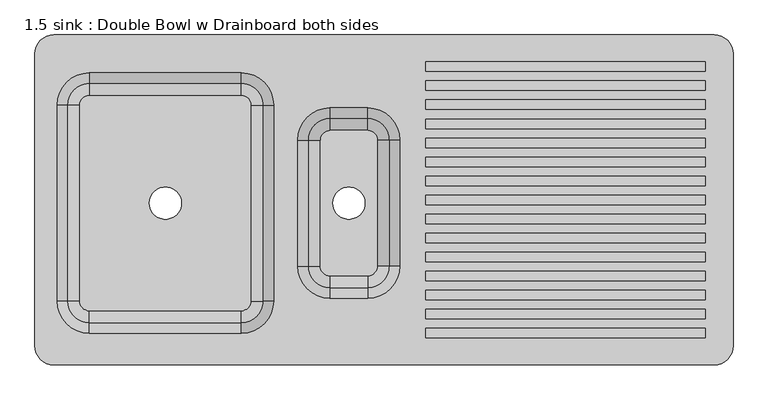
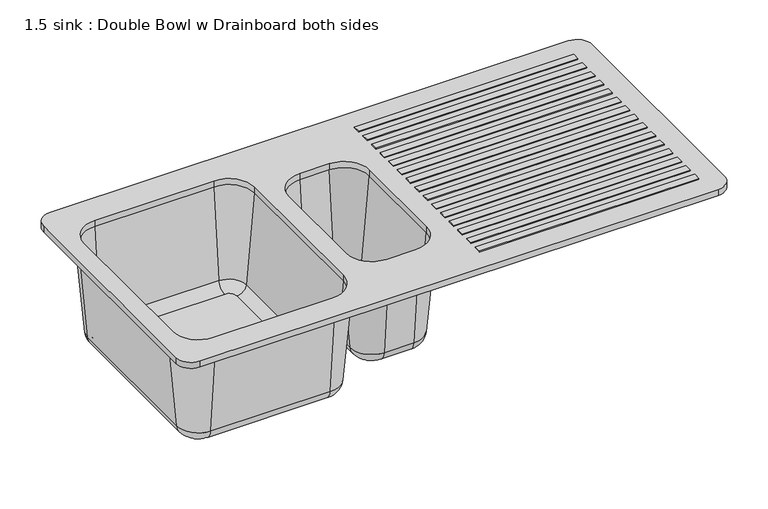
"""IFC4 building model written with IfcOpenShell, lengths in millimetres: flow terminal geometry, 1.5 sink : Double Bowl w Drainboard both sides."""

from ifc_helpers import new_model, si_unit, point, frame, origin, place, context, project, spatial, polyline, circle_curve, ellipse_curve, trimmed, outline, extrude, source, transform, mapped, element, save
from ifc_brep_helpers import plane_surface, cylinder_surface, revolved_surface, advanced_brep


def flow_terminal_1_5_sink_double_bowl_w_drainboard_both_sides_b46aa2b9(model_context):
    return source(origin(), model_context, "Body", "SolidModel", [
        advanced_brep(
        [(-16.6010968, 149.3834378, 710.1840889), (-60.3607594, 193.1431005, 710.1840889), (-60.3607594, 209.7498409, 900.0), (0.0056436, 149.3834378, 900.0), (-45.0723412, 149.3834378, 684.095), (-60.3607594, 164.671856, 684.095), (-45.0723412, -159.0165622, 684.095), (-60.3607594, -174.3049804, 684.095), (-299.7107594, -174.3049804, 684.095), (-314.9991776, -159.0165622, 684.095), (-314.9991776, 149.3834378, 684.095), (-299.7107594, 164.671856, 684.095), (-205.4357594, -4.8165622, 684.095), (-154.6357594, -4.8165622, 684.095), (-45.0723412, 149.3834378, 693.625), (-60.3607594, 164.671856, 693.625), (-299.7107594, 164.671856, 693.625), (-314.9991776, 149.3834378, 693.625), (-314.9991776, -159.0165622, 693.625), (-299.7107594, -174.3049804, 693.625), (-60.3607594, -174.3049804, 693.625), (-45.0723412, -159.0165622, 693.625), (-205.4357594, -4.8165622, 693.625), (-154.6357594, -4.8165622, 693.625), (-26.0948322, 149.3834378, 711.0146831), (-60.3607594, 183.649365, 711.0146831), (-9.5607594, 149.3834378, 900.0), (-60.3607594, 200.1834378, 900.0), (0.0056436, -159.0165622, 900.0), (-16.6010968, -159.0165622, 710.1840889), (-26.0948322, -159.0165622, 711.0146831), (-9.5607594, -159.0165622, 900.0), (-60.3607594, -219.3829652, 900.0), (-60.3607594, -202.7762248, 710.1840889), (-60.3607594, -193.2824894, 711.0146831), (-60.3607594, -209.8165622, 900.0), (-299.7107594, -219.3829652, 900.0), (-299.7107594, -202.7762248, 710.1840889), (-299.7107594, -193.2824894, 711.0146831), (-299.7107594, -209.8165622, 900.0), (-360.0771625, -159.0165622, 900.0), (-343.4704221, -159.0165622, 710.1840889), (-333.9766866, -159.0165622, 711.0146831), (-350.5107594, -159.0165622, 900.0), (-360.0771625, 149.3834378, 900.0), (-343.4704221, 149.3834378, 710.1840889), (-333.9766866, 149.3834378, 711.0146831), (-350.5107594, 149.3834378, 900.0), (-299.7107594, 209.7498409, 900.0), (-299.7107594, 193.1431005, 710.1840889), (-299.7107594, 183.649365, 711.0146831), (-299.7107594, 200.1834378, 900.0), (684.4892406, 260.1834378, 912.7), (-355.5107594, 260.1834378, 912.7), (-385.5107594, 230.1834378, 912.7), (-385.5107594, -229.8165622, 912.7), (-355.5107594, -259.8165622, 912.7), (684.4892406, -259.8165622, 912.7), (714.4892406, -229.8165622, 912.7), (714.4892406, 230.1834378, 912.7), (-60.3607594, 200.1834378, 912.7), (-9.5607594, 149.3834378, 912.7), (-9.5607594, -159.0165622, 912.7), (-60.3607594, -209.8165622, 912.7), (-299.7107594, -209.8165622, 912.7), (-350.5107594, -159.0165622, 912.7), (-350.5107594, 149.3834378, 912.7), (-299.7107594, 200.1834378, 912.7), (79.3392406, -154.8165622, 912.7), (28.5392406, -104.0165622, 912.7), (28.5392406, 94.3834378, 912.7), (79.3392406, 145.1834378, 912.7), (138.6892406, 145.1834378, 912.7), (189.4892406, 94.3834378, 912.7), (189.4892406, -104.0165622, 912.7), (138.6892406, -154.8165622, 912.7), (684.4892406, 260.1834378, 900.0), (714.4892406, 230.1834378, 900.0), (714.4892406, -229.8165622, 900.0), (684.4892406, -259.8165622, 900.0), (-355.5107594, -259.8165622, 900.0), (-385.5107594, -229.8165622, 900.0), (-385.5107594, 230.1834378, 900.0), (-355.5107594, 260.1834378, 900.0), (79.3392406, 154.7498409, 900.0), (18.9728375, 94.3834378, 900.0), (18.9728375, -104.0165622, 900.0), (79.3392406, -164.3829652, 900.0), (138.6892406, -164.3829652, 900.0), (199.0556436, -104.0165622, 900.0), (199.0556436, 94.3834378, 900.0), (138.6892406, 154.7498409, 900.0), (79.3392406, -154.8165622, 900.0), (28.5392406, -104.0165622, 900.0), (28.5392406, 94.3834378, 900.0), (79.3392406, 145.1834378, 900.0), (138.6892406, 145.1834378, 900.0), (189.4892406, 94.3834378, 900.0), (189.4892406, -104.0165622, 900.0), (138.6892406, -154.8165622, 900.0), (45.0733134, 94.3834378, 711.0146831), (79.3392406, 128.649365, 711.0146831), (64.0508224, 94.3834378, 693.625), (79.3392406, 109.671856, 693.625), (64.0508224, -104.0165622, 693.625), (79.3392406, -119.3049804, 693.625), (138.6892406, -119.3049804, 693.625), (153.9776588, -104.0165622, 693.625), (153.9776588, 94.3834378, 693.625), (138.6892406, 109.671856, 693.625), (83.6142406, -4.8165622, 693.625), (134.4142406, -4.8165622, 693.625), (64.0508224, 94.3834378, 684.095), (79.3392406, 109.671856, 684.095), (138.6892406, 109.671856, 684.095), (153.9776588, 94.3834378, 684.095), (153.9776588, -104.0165622, 684.095), (138.6892406, -119.3049804, 684.095), (79.3392406, -119.3049804, 684.095), (64.0508224, -104.0165622, 684.095), (83.6142406, -4.8165622, 684.095), (134.4142406, -4.8165622, 684.095), (35.5795779, 94.3834378, 710.1840889), (79.3392406, 138.1431005, 710.1840889), (45.0733134, -104.0165622, 711.0146831), (35.5795779, -104.0165622, 710.1840889), (79.3392406, -138.2824894, 711.0146831), (79.3392406, -147.7762248, 710.1840889), (138.6892406, -138.2824894, 711.0146831), (138.6892406, -147.7762248, 710.1840889), (172.9551678, -104.0165622, 711.0146831), (182.4489032, -104.0165622, 710.1840889), (172.9551678, 94.3834378, 711.0146831), (182.4489032, 94.3834378, 710.1840889), (138.6892406, 128.649365, 711.0146831), (138.6892406, 138.1431005, 710.1840889)],
        [
            (0, 1, circle_curve(frame((-60.3607594, 149.3834378, 710.1840889), z_axis=(0.0, 0.0, 1.0), x_axis=(0.0, 1.0, 0.0)), 43.7596627)),
            (1, 2),
            (2, 3, circle_curve(frame((-60.3607594, 149.3834378, 900.0), z_axis=(0.0, 0.0, -1.0), x_axis=(0.0, 1.0, 0.0)), 60.3664031)),
            (3, 0),
            (0, 4, circle_curve(frame((-45.0723412, 149.3834378, 712.675), z_axis=(0.0, 1.0, 0.0), x_axis=(1.0, 0.0, 0.0)), 28.58)),
            (4, 5, circle_curve(frame((-60.3607594, 149.3834378, 684.095), z_axis=(0.0, 0.0, 1.0), x_axis=(0.0, 1.0, 0.0)), 15.2884182)),
            (5, 1, circle_curve(frame((-60.3607594, 164.671856, 712.675), z_axis=(1.0, 0.0, 0.0), x_axis=(0.0, 1.0, 0.0)), 28.58)),
            (4, 6),
            (6, 7, circle_curve(frame((-60.3607594, -159.0165622, 684.095), z_axis=(0.0, 0.0, -1.0), x_axis=(1.0, 0.0, 0.0)), 15.2884182)),
            (7, 8),
            (8, 9, circle_curve(frame((-299.7107594, -159.0165622, 684.095), z_axis=(0.0, 0.0, -1.0), x_axis=(0.0, -1.0, 0.0)), 15.2884182)),
            (9, 10),
            (10, 11, circle_curve(frame((-299.7107594, 149.3834378, 684.095), z_axis=(0.0, 0.0, -1.0), x_axis=(-1.0, 0.0, 0.0)), 15.2884182)),
            (11, 5),
            (12, 13, circle_curve(frame((-180.0357594, -4.8165622, 684.095), z_axis=(0.0, 0.0, 1.0), x_axis=(1.0, 0.0, 0.0)), 25.4)),
            (13, 12, circle_curve(frame((-180.0357594, -4.8165622, 684.095), z_axis=(0.0, 0.0, 1.0), x_axis=(1.0, 0.0, 0.0)), 25.4)),
            (14, 15, circle_curve(frame((-60.3607594, 149.3834378, 693.625), z_axis=(0.0, 0.0, 1.0), x_axis=(0.0, 1.0, 0.0)), 15.2884182)),
            (15, 16),
            (16, 17, circle_curve(frame((-299.7107594, 149.3834378, 693.625), z_axis=(0.0, 0.0, 1.0), x_axis=(-1.0, 0.0, 0.0)), 15.2884182)),
            (17, 18),
            (18, 19, circle_curve(frame((-299.7107594, -159.0165622, 693.625), z_axis=(0.0, 0.0, 1.0), x_axis=(0.0, -1.0, 0.0)), 15.2884182)),
            (19, 20),
            (20, 21, circle_curve(frame((-60.3607594, -159.0165622, 693.625), z_axis=(0.0, 0.0, 1.0), x_axis=(1.0, 0.0, 0.0)), 15.2884182)),
            (21, 14),
            (22, 23, circle_curve(frame((-180.0357594, -4.8165622, 693.625), z_axis=(0.0, 0.0, -1.0), x_axis=(1.0, 0.0, 0.0)), 25.4)),
            (23, 22, circle_curve(frame((-180.0357594, -4.8165622, 693.625), z_axis=(0.0, 0.0, -1.0), x_axis=(1.0, 0.0, 0.0)), 25.4)),
            (14, 24, circle_curve(frame((-45.0723412, 149.3834378, 712.675), z_axis=(0.0, -1.0, 0.0), x_axis=(1.0, 0.0, 0.0)), 19.05)),
            (24, 25, circle_curve(frame((-60.3607594, 149.3834378, 711.0146831), z_axis=(0.0, 0.0, 1.0), x_axis=(0.0, 1.0, 0.0)), 34.2659272)),
            (25, 15, circle_curve(frame((-60.3607594, 164.671856, 712.675), z_axis=(-1.0, 0.0, 0.0), x_axis=(0.0, 1.0, 0.0)), 19.05)),
            (24, 26),
            (26, 27, circle_curve(frame((-60.3607594, 149.3834378, 900.0), z_axis=(0.0, 0.0, 1.0), x_axis=(0.0, 1.0, 0.0)), 50.8)),
            (27, 25),
            (3, 28),
            (28, 29),
            (29, 0),
            (29, 6, circle_curve(frame((-45.0723412, -159.0165622, 712.675), z_axis=(0.0, 1.0, 0.0), x_axis=(1.0, 0.0, 0.0)), 28.58)),
            (21, 30, circle_curve(frame((-45.0723412, -159.0165622, 712.675), z_axis=(0.0, -1.0, 0.0), x_axis=(1.0, 0.0, 0.0)), 19.05)),
            (30, 24),
            (30, 31),
            (31, 26),
            (28, 32, circle_curve(frame((-60.3607594, -159.0165622, 900.0), z_axis=(0.0, 0.0, -1.0), x_axis=(1.0, 0.0, 0.0)), 60.3664031)),
            (32, 33),
            (33, 29, circle_curve(frame((-60.3607594, -159.0165622, 710.1840889), z_axis=(0.0, 0.0, 1.0), x_axis=(1.0, 0.0, 0.0)), 43.7596627)),
            (33, 7, circle_curve(frame((-60.3607594, -174.3049804, 712.675), z_axis=(1.0, 0.0, 0.0), x_axis=(0.0, -1.0, 0.0)), 28.58)),
            (20, 34, circle_curve(frame((-60.3607594, -174.3049804, 712.675), z_axis=(-1.0, 0.0, 0.0), x_axis=(0.0, -1.0, 0.0)), 19.05)),
            (34, 30, circle_curve(frame((-60.3607594, -159.0165622, 711.0146831), z_axis=(0.0, 0.0, 1.0), x_axis=(1.0, 0.0, 0.0)), 34.2659272)),
            (34, 35),
            (35, 31, circle_curve(frame((-60.3607594, -159.0165622, 900.0), z_axis=(0.0, 0.0, 1.0), x_axis=(1.0, 0.0, 0.0)), 50.8)),
            (32, 36),
            (36, 37),
            (37, 33),
            (37, 8, circle_curve(frame((-299.7107594, -174.3049804, 712.675), z_axis=(1.0, 0.0, 0.0), x_axis=(0.0, -1.0, 0.0)), 28.58)),
            (19, 38, circle_curve(frame((-299.7107594, -174.3049804, 712.675), z_axis=(-1.0, 0.0, 0.0), x_axis=(0.0, -1.0, 0.0)), 19.05)),
            (38, 34),
            (38, 39),
            (39, 35),
            (36, 40, circle_curve(frame((-299.7107594, -159.0165622, 900.0), z_axis=(0.0, 0.0, -1.0), x_axis=(0.0, -1.0, 0.0)), 60.3664031)),
            (40, 41),
            (41, 37, circle_curve(frame((-299.7107594, -159.0165622, 710.1840889), z_axis=(0.0, 0.0, 1.0), x_axis=(0.0, -1.0, 0.0)), 43.7596627)),
            (41, 9, circle_curve(frame((-314.9991776, -159.0165622, 712.675), z_axis=(0.0, -1.0, 0.0), x_axis=(-1.0, 0.0, 0.0)), 28.58)),
            (18, 42, circle_curve(frame((-314.9991776, -159.0165622, 712.675), z_axis=(0.0, 1.0, 0.0), x_axis=(-1.0, 0.0, 0.0)), 19.05)),
            (42, 38, circle_curve(frame((-299.7107594, -159.0165622, 711.0146831), z_axis=(0.0, 0.0, 1.0), x_axis=(0.0, -1.0, 0.0)), 34.2659272)),
            (42, 43),
            (43, 39, circle_curve(frame((-299.7107594, -159.0165622, 900.0), z_axis=(0.0, 0.0, 1.0), x_axis=(0.0, -1.0, 0.0)), 50.8)),
            (40, 44),
            (44, 45),
            (45, 41),
            (45, 10, circle_curve(frame((-314.9991776, 149.3834378, 712.675), z_axis=(0.0, -1.0, 0.0), x_axis=(-1.0, 0.0, 0.0)), 28.58)),
            (17, 46, circle_curve(frame((-314.9991776, 149.3834378, 712.675), z_axis=(0.0, 1.0, 0.0), x_axis=(-1.0, 0.0, 0.0)), 19.05)),
            (46, 42),
            (46, 47),
            (47, 43),
            (44, 48, circle_curve(frame((-299.7107594, 149.3834378, 900.0), z_axis=(0.0, 0.0, -1.0), x_axis=(-1.0, 0.0, 0.0)), 60.3664031)),
            (48, 49),
            (49, 45, circle_curve(frame((-299.7107594, 149.3834378, 710.1840889), z_axis=(0.0, 0.0, 1.0), x_axis=(-1.0, 0.0, 0.0)), 43.7596627)),
            (49, 11, circle_curve(frame((-299.7107594, 164.671856, 712.675), z_axis=(-1.0, 0.0, 0.0), x_axis=(0.0, 1.0, 0.0)), 28.58)),
            (16, 50, circle_curve(frame((-299.7107594, 164.671856, 712.675), z_axis=(1.0, 0.0, 0.0), x_axis=(0.0, 1.0, 0.0)), 19.05)),
            (50, 46, circle_curve(frame((-299.7107594, 149.3834378, 711.0146831), z_axis=(0.0, 0.0, 1.0), x_axis=(-1.0, 0.0, 0.0)), 34.2659272)),
            (50, 51),
            (51, 47, circle_curve(frame((-299.7107594, 149.3834378, 900.0), z_axis=(0.0, 0.0, 1.0), x_axis=(-1.0, 0.0, 0.0)), 50.8)),
            (1, 49),
            (48, 2),
            (25, 50),
            (27, 51),
            (52, 53),
            (53, 54, circle_curve(frame((-355.5107594, 230.1834378, 912.7), z_axis=(0.0, 0.0, 1.0), x_axis=(1.0, 0.0, 0.0)), 30.0)),
            (54, 55),
            (55, 56, circle_curve(frame((-355.5107594, -229.8165622, 912.7), z_axis=(0.0, 0.0, 1.0), x_axis=(1.0, 0.0, 0.0)), 30.0)),
            (56, 57),
            (57, 58, circle_curve(frame((684.4892406, -229.8165622, 912.7), z_axis=(0.0, 0.0, 1.0), x_axis=(1.0, 0.0, 0.0)), 30.0)),
            (58, 59),
            (59, 52, circle_curve(frame((684.4892406, 230.1834378, 912.7), z_axis=(0.0, 0.0, 1.0), x_axis=(1.0, 0.0, 0.0)), 30.0)),
            (60, 61, circle_curve(frame((-60.3607594, 149.3834378, 912.7), z_axis=(0.0, 0.0, -1.0), x_axis=(1.0, 0.0, 0.0)), 50.8)),
            (61, 62),
            (62, 63, circle_curve(frame((-60.3607594, -159.0165622, 912.7), z_axis=(0.0, 0.0, -1.0), x_axis=(1.0, 0.0, 0.0)), 50.8)),
            (63, 64),
            (64, 65, circle_curve(frame((-299.7107594, -159.0165622, 912.7), z_axis=(0.0, 0.0, -1.0), x_axis=(1.0, 0.0, 0.0)), 50.8)),
            (65, 66),
            (66, 67, circle_curve(frame((-299.7107594, 149.3834378, 912.7), z_axis=(0.0, 0.0, -1.0), x_axis=(1.0, 0.0, 0.0)), 50.8)),
            (67, 60),
            (68, 69, circle_curve(frame((79.3392406, -104.0165622, 912.7), z_axis=(0.0, 0.0, -1.0), x_axis=(1.0, 0.0, 0.0)), 50.8)),
            (69, 70),
            (70, 71, circle_curve(frame((79.3392406, 94.3834378, 912.7), z_axis=(0.0, 0.0, -1.0), x_axis=(1.0, 0.0, 0.0)), 50.8)),
            (71, 72),
            (72, 73, circle_curve(frame((138.6892406, 94.3834378, 912.7), z_axis=(0.0, 0.0, -1.0), x_axis=(1.0, 0.0, 0.0)), 50.8)),
            (73, 74),
            (74, 75, circle_curve(frame((138.6892406, -104.0165622, 912.7), z_axis=(0.0, 0.0, -1.0), x_axis=(1.0, 0.0, 0.0)), 50.8)),
            (75, 68),
            (76, 77, circle_curve(frame((684.4892406, 230.1834378, 900.0), z_axis=(0.0, 0.0, -1.0), x_axis=(1.0, 0.0, 0.0)), 30.0)),
            (77, 78),
            (78, 79, circle_curve(frame((684.4892406, -229.8165622, 900.0), z_axis=(0.0, 0.0, -1.0), x_axis=(1.0, 0.0, 0.0)), 30.0)),
            (79, 80),
            (80, 81, circle_curve(frame((-355.5107594, -229.8165622, 900.0), z_axis=(0.0, 0.0, -1.0), x_axis=(1.0, 0.0, 0.0)), 30.0)),
            (81, 82),
            (82, 83, circle_curve(frame((-355.5107594, 230.1834378, 900.0), z_axis=(0.0, 0.0, -1.0), x_axis=(1.0, 0.0, 0.0)), 30.0)),
            (83, 76),
            (84, 85, circle_curve(frame((79.3392406, 94.3834378, 900.0), z_axis=(0.0, 0.0, 1.0), x_axis=(0.0, 1.0, 0.0)), 60.3664031)),
            (85, 86),
            (86, 87, circle_curve(frame((79.3392406, -104.0165622, 900.0), z_axis=(0.0, 0.0, 1.0), x_axis=(-1.0, 0.0, 0.0)), 60.3664031)),
            (87, 88),
            (88, 89, circle_curve(frame((138.6892406, -104.0165622, 900.0), z_axis=(0.0, 0.0, 1.0), x_axis=(0.0, -1.0, 0.0)), 60.3664031)),
            (89, 90),
            (90, 91, circle_curve(frame((138.6892406, 94.3834378, 900.0), z_axis=(0.0, 0.0, 1.0), x_axis=(1.0, 0.0, 0.0)), 60.3664031)),
            (91, 84),
            (52, 76),
            (83, 53),
            (82, 54),
            (81, 55),
            (80, 56),
            (79, 57),
            (78, 58),
            (77, 59),
            (60, 27),
            (26, 61),
            (31, 62),
            (35, 63),
            (39, 64),
            (43, 65),
            (47, 66),
            (51, 67),
            (68, 92),
            (92, 93, circle_curve(frame((79.3392406, -104.0165622, 900.0), z_axis=(0.0, 0.0, -1.0), x_axis=(1.0, 0.0, 0.0)), 50.8)),
            (93, 69),
            (93, 94),
            (94, 70),
            (94, 95, circle_curve(frame((79.3392406, 94.3834378, 900.0), z_axis=(0.0, 0.0, -1.0), x_axis=(1.0, 0.0, 0.0)), 50.8)),
            (95, 71),
            (95, 96),
            (96, 72),
            (96, 97, circle_curve(frame((138.6892406, 94.3834378, 900.0), z_axis=(0.0, 0.0, -1.0), x_axis=(1.0, 0.0, 0.0)), 50.8)),
            (97, 73),
            (97, 98),
            (98, 74),
            (98, 99, circle_curve(frame((138.6892406, -104.0165622, 900.0), z_axis=(0.0, 0.0, -1.0), x_axis=(1.0, 0.0, 0.0)), 50.8)),
            (99, 75),
            (99, 92),
            (100, 101, circle_curve(frame((79.3392406, 94.3834378, 711.0146831), z_axis=(0.0, 0.0, -1.0), x_axis=(0.0, 1.0, 0.0)), 34.2659272)),
            (101, 95),
            (94, 100),
            (100, 102, circle_curve(frame((64.0508224, 94.3834378, 712.675), z_axis=(0.0, -1.0, 0.0), x_axis=(1.0, 0.0, 0.0)), 19.05)),
            (102, 103, circle_curve(frame((79.3392406, 94.3834378, 693.625), z_axis=(0.0, 0.0, -1.0), x_axis=(0.0, 1.0, 0.0)), 15.2884182)),
            (103, 101, circle_curve(frame((79.3392406, 109.671856, 712.675), z_axis=(1.0, 0.0, 0.0), x_axis=(0.0, -1.0, 0.0)), 19.05)),
            (102, 104),
            (104, 105, circle_curve(frame((79.3392406, -104.0165622, 693.625), z_axis=(0.0, 0.0, 1.0), x_axis=(-1.0, 0.0, 0.0)), 15.2884182)),
            (105, 106),
            (106, 107, circle_curve(frame((138.6892406, -104.0165622, 693.625), z_axis=(0.0, 0.0, 1.0), x_axis=(0.0, -1.0, 0.0)), 15.2884182)),
            (107, 108),
            (108, 109, circle_curve(frame((138.6892406, 94.3834378, 693.625), z_axis=(0.0, 0.0, 1.0), x_axis=(1.0, 0.0, 0.0)), 15.2884182)),
            (109, 103),
            (110, 111, circle_curve(frame((109.0142406, -4.8165622, 693.625), z_axis=(0.0, 0.0, -1.0), x_axis=(1.0, 0.0, 0.0)), 25.4)),
            (111, 110, circle_curve(frame((109.0142406, -4.8165622, 693.625), z_axis=(0.0, 0.0, -1.0), x_axis=(1.0, 0.0, 0.0)), 25.4)),
            (112, 113, circle_curve(frame((79.3392406, 94.3834378, 684.095), z_axis=(0.0, 0.0, -1.0), x_axis=(0.0, 1.0, 0.0)), 15.2884182)),
            (113, 114),
            (114, 115, circle_curve(frame((138.6892406, 94.3834378, 684.095), z_axis=(0.0, 0.0, -1.0), x_axis=(1.0, 0.0, 0.0)), 15.2884182)),
            (115, 116),
            (116, 117, circle_curve(frame((138.6892406, -104.0165622, 684.095), z_axis=(0.0, 0.0, -1.0), x_axis=(0.0, -1.0, 0.0)), 15.2884182)),
            (117, 118),
            (118, 119, circle_curve(frame((79.3392406, -104.0165622, 684.095), z_axis=(0.0, 0.0, -1.0), x_axis=(-1.0, 0.0, 0.0)), 15.2884182)),
            (119, 112),
            (120, 121, circle_curve(frame((109.0142406, -4.8165622, 684.095), z_axis=(0.0, 0.0, 1.0), x_axis=(1.0, 0.0, 0.0)), 25.4)),
            (121, 120, circle_curve(frame((109.0142406, -4.8165622, 684.095), z_axis=(0.0, 0.0, 1.0), x_axis=(1.0, 0.0, 0.0)), 25.4)),
            (112, 122, circle_curve(frame((64.0508224, 94.3834378, 712.675), z_axis=(0.0, 1.0, 0.0), x_axis=(1.0, 0.0, 0.0)), 28.58)),
            (122, 123, circle_curve(frame((79.3392406, 94.3834378, 710.1840889), z_axis=(0.0, 0.0, -1.0), x_axis=(0.0, 1.0, 0.0)), 43.7596627)),
            (123, 113, circle_curve(frame((79.3392406, 109.671856, 712.675), z_axis=(-1.0, 0.0, 0.0), x_axis=(0.0, -1.0, 0.0)), 28.58)),
            (122, 85),
            (84, 123),
            (93, 124),
            (124, 100),
            (124, 104, circle_curve(frame((64.0508224, -104.0165622, 712.675), z_axis=(0.0, -1.0, 0.0), x_axis=(1.0, 0.0, 0.0)), 19.05)),
            (119, 125, circle_curve(frame((64.0508224, -104.0165622, 712.675), z_axis=(0.0, 1.0, 0.0), x_axis=(1.0, 0.0, 0.0)), 28.58)),
            (125, 122),
            (125, 86),
            (92, 126),
            (126, 124, circle_curve(frame((79.3392406, -104.0165622, 711.0146831), z_axis=(0.0, 0.0, -1.0), x_axis=(-1.0, 0.0, 0.0)), 34.2659272)),
            (126, 105, circle_curve(frame((79.3392406, -119.3049804, 712.675), z_axis=(1.0, 0.0, 0.0), x_axis=(0.0, 1.0, 0.0)), 19.05)),
            (118, 127, circle_curve(frame((79.3392406, -119.3049804, 712.675), z_axis=(-1.0, 0.0, 0.0), x_axis=(0.0, 1.0, 0.0)), 28.58)),
            (127, 125, circle_curve(frame((79.3392406, -104.0165622, 710.1840889), z_axis=(0.0, 0.0, -1.0), x_axis=(-1.0, 0.0, 0.0)), 43.7596627)),
            (127, 87),
            (99, 128),
            (128, 126),
            (128, 106, circle_curve(frame((138.6892406, -119.3049804, 712.675), z_axis=(1.0, 0.0, 0.0), x_axis=(0.0, 1.0, 0.0)), 19.05)),
            (117, 129, circle_curve(frame((138.6892406, -119.3049804, 712.675), z_axis=(-1.0, 0.0, 0.0), x_axis=(0.0, 1.0, 0.0)), 28.58)),
            (129, 127),
            (129, 88),
            (98, 130),
            (130, 128, circle_curve(frame((138.6892406, -104.0165622, 711.0146831), z_axis=(0.0, 0.0, -1.0), x_axis=(0.0, -1.0, 0.0)), 34.2659272)),
            (130, 107, circle_curve(frame((153.9776588, -104.0165622, 712.675), z_axis=(0.0, 1.0, 0.0), x_axis=(-1.0, 0.0, 0.0)), 19.05)),
            (116, 131, circle_curve(frame((153.9776588, -104.0165622, 712.675), z_axis=(0.0, -1.0, 0.0), x_axis=(-1.0, 0.0, 0.0)), 28.58)),
            (131, 129, circle_curve(frame((138.6892406, -104.0165622, 710.1840889), z_axis=(0.0, 0.0, -1.0), x_axis=(0.0, -1.0, 0.0)), 43.7596627)),
            (131, 89),
            (97, 132),
            (132, 130),
            (132, 108, circle_curve(frame((153.9776588, 94.3834378, 712.675), z_axis=(0.0, 1.0, 0.0), x_axis=(-1.0, 0.0, 0.0)), 19.05)),
            (115, 133, circle_curve(frame((153.9776588, 94.3834378, 712.675), z_axis=(0.0, -1.0, 0.0), x_axis=(-1.0, 0.0, 0.0)), 28.58)),
            (133, 131),
            (133, 90),
            (96, 134),
            (134, 132, circle_curve(frame((138.6892406, 94.3834378, 711.0146831), z_axis=(0.0, 0.0, -1.0), x_axis=(1.0, 0.0, 0.0)), 34.2659272)),
            (134, 109, circle_curve(frame((138.6892406, 109.671856, 712.675), z_axis=(-1.0, 0.0, 0.0), x_axis=(0.0, -1.0, 0.0)), 19.05)),
            (114, 135, circle_curve(frame((138.6892406, 109.671856, 712.675), z_axis=(1.0, 0.0, 0.0), x_axis=(0.0, -1.0, 0.0)), 28.58)),
            (135, 133, circle_curve(frame((138.6892406, 94.3834378, 710.1840889), z_axis=(0.0, 0.0, -1.0), x_axis=(1.0, 0.0, 0.0)), 43.7596627)),
            (135, 91),
            (101, 134),
            (123, 135),
            (110, 120),
            (121, 111),
            (22, 12),
            (13, 23),
        ],
        [
            revolved_surface(polyline([(-60.3607594, 209.7498409, 900.0), (-60.3607594, 193.1431005, 710.1840889)]), (-60.3607594, 149.3834378, 0.0), (0.0, 0.0, -1.0)),
            revolved_surface(trimmed(ellipse_curve(frame((-60.3607594, 164.671856, 712.675), z_axis=(-1.0, 0.0, 0.0), x_axis=(0.0, 1.0, 0.0)), 28.58, 28.58), [point((-60.3607594, 193.1431005, 710.1840889))], [point((-60.3607594, 164.671856, 684.095))], True, "CARTESIAN"), (-60.3607594, 149.3834378, 0.0), (0.0, 0.0, -1.0)),
            plane_surface(frame((-60.3607594, 149.3834378, 684.095), z_axis=(0.0, 0.0, -1.0), x_axis=(0.0, 1.0, 0.0))),
            plane_surface(frame((-60.3607594, 149.3834378, 693.625), z_axis=(0.0, 0.0, 1.0), x_axis=(0.0, 1.0, 0.0))),
            revolved_surface(trimmed(ellipse_curve(frame((-60.3607594, 164.671856, 712.675), z_axis=(1.0, 0.0, 0.0), x_axis=(0.0, 1.0, 0.0)), 19.05, 19.05), [point((-60.3607594, 164.671856, 693.625))], [point((-60.3607594, 183.649365, 711.0146831))], True, "CARTESIAN"), (-60.3607594, 149.3834378, 0.0), (0.0, 0.0, -1.0)),
            revolved_surface(polyline([(-60.3607594, 183.649365, 711.0146831), (-60.3607594, 200.1834378, 900.0)]), (-60.3607594, 149.3834378, 0.0), (0.0, 0.0, -1.0)),
            plane_surface(frame((0.0056436, 149.3834378, 900.0), z_axis=(0.9961946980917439, 0.0, -0.08715574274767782), x_axis=(0.0, -1.0, 0.0))),
            cylinder_surface(frame((-45.0723412, 149.3834378, 712.675), z_axis=(0.0, 1.0, 0.0), x_axis=(1.0, 0.0, 0.0)), 28.58),
            revolved_surface(polyline([(-26.022341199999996, -159.01656219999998, 712.675), (-26.022341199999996, 149.3834378, 712.675)]), (-45.0723412, 149.3834378, 712.675), (0.0, -1.0, 0.0)),
            plane_surface(frame((-26.0948322, 149.3834378, 711.0146831), z_axis=(-0.9961946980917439, 0.0, 0.08715574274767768), x_axis=(0.0, -1.0, 0.0))),
            revolved_surface(polyline([(0.0056436, -159.0165622, 900.0), (-16.6010968, -159.0165622, 710.1840889)]), (-60.3607594, -159.0165622, 0.0), (0.0, 0.0, -1.0)),
            revolved_surface(trimmed(ellipse_curve(frame((-45.0723412, -159.0165622, 712.675), z_axis=(0.0, 1.0, 0.0), x_axis=(1.0, 0.0, 0.0)), 28.58, 28.58), [point((-16.6010968, -159.0165622, 710.1840889))], [point((-45.0723412, -159.0165622, 684.095))], True, "CARTESIAN"), (-60.3607594, -159.0165622, 0.0), (0.0, 0.0, -1.0)),
            revolved_surface(trimmed(ellipse_curve(frame((-45.0723412, -159.0165622, 712.675), z_axis=(0.0, -1.0, 0.0), x_axis=(1.0, 0.0, 0.0)), 19.05, 19.05), [point((-45.0723412, -159.0165622, 693.625))], [point((-26.0948322, -159.0165622, 711.0146831))], True, "CARTESIAN"), (-60.3607594, -159.0165622, 0.0), (0.0, 0.0, -1.0)),
            revolved_surface(polyline([(-26.0948322, -159.0165622, 711.0146831), (-9.5607594, -159.0165622, 900.0)]), (-60.3607594, -159.0165622, 0.0), (0.0, 0.0, -1.0)),
            plane_surface(frame((-60.3607594, -219.3829652, 900.0), z_axis=(0.0, -0.9961946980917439, -0.08715574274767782), x_axis=(-1.0, 0.0, 0.0))),
            cylinder_surface(frame((-60.3607594, -174.3049804, 712.675), z_axis=(1.0, 0.0, 0.0), x_axis=(0.0, -1.0, 0.0)), 28.58),
            revolved_surface(polyline([(-299.7107594, -193.35498040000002, 712.675), (-60.3607594, -193.35498040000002, 712.675)]), (-60.3607594, -174.3049804, 712.675), (-1.0, 0.0, 0.0)),
            plane_surface(frame((-60.3607594, -193.2824894, 711.0146831), z_axis=(0.0, 0.9961946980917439, 0.08715574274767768), x_axis=(-1.0, 0.0, 0.0))),
            revolved_surface(polyline([(-299.7107594, -219.3829652, 900.0), (-299.7107594, -202.7762248, 710.1840889)]), (-299.7107594, -159.0165622, 0.0), (0.0, 0.0, -1.0)),
            revolved_surface(trimmed(ellipse_curve(frame((-299.7107594, -174.3049804, 712.675), z_axis=(1.0, 0.0, 0.0), x_axis=(0.0, -1.0, 0.0)), 28.58, 28.58), [point((-299.7107594, -202.7762248, 710.1840889))], [point((-299.7107594, -174.3049804, 684.095))], True, "CARTESIAN"), (-299.7107594, -159.0165622, 0.0), (0.0, 0.0, -1.0)),
            revolved_surface(trimmed(ellipse_curve(frame((-299.7107594, -174.3049804, 712.675), z_axis=(-1.0, 0.0, 0.0), x_axis=(0.0, -1.0, 0.0)), 19.05, 19.05), [point((-299.7107594, -174.3049804, 693.625))], [point((-299.7107594, -193.2824894, 711.0146831))], True, "CARTESIAN"), (-299.7107594, -159.0165622, 0.0), (0.0, 0.0, -1.0)),
            revolved_surface(polyline([(-299.7107594, -193.2824894, 711.0146831), (-299.7107594, -209.8165622, 900.0)]), (-299.7107594, -159.0165622, 0.0), (0.0, 0.0, -1.0)),
            plane_surface(frame((-360.0771625, -159.0165622, 900.0), z_axis=(-0.9961946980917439, 0.0, -0.08715574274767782), x_axis=(0.0, 1.0, 0.0))),
            cylinder_surface(frame((-314.9991776, -159.0165622, 712.675), z_axis=(0.0, -1.0, 0.0), x_axis=(-1.0, 0.0, 0.0)), 28.58),
            revolved_surface(polyline([(-334.0491776, 149.38343779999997, 712.675), (-334.0491776, -159.0165622, 712.675)]), (-314.9991776, -159.0165622, 712.675), (0.0, 1.0, 0.0)),
            plane_surface(frame((-333.9766866, -159.0165622, 711.0146831), z_axis=(0.9961946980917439, 0.0, 0.08715574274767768), x_axis=(0.0, 1.0, 0.0))),
            revolved_surface(polyline([(-360.0771625, 149.3834378, 900.0), (-343.4704221, 149.3834378, 710.1840889)]), (-299.7107594, 149.3834378, 0.0), (0.0, 0.0, -1.0)),
            revolved_surface(trimmed(ellipse_curve(frame((-314.9991776, 149.3834378, 712.675), z_axis=(0.0, -1.0, 0.0), x_axis=(-1.0, 0.0, 0.0)), 28.58, 28.58), [point((-343.4704221, 149.3834378, 710.1840889))], [point((-314.9991776, 149.3834378, 684.095))], True, "CARTESIAN"), (-299.7107594, 149.3834378, 0.0), (0.0, 0.0, -1.0)),
            revolved_surface(trimmed(ellipse_curve(frame((-314.9991776, 149.3834378, 712.675), z_axis=(0.0, 1.0, 0.0), x_axis=(-1.0, 0.0, 0.0)), 19.05, 19.05), [point((-314.9991776, 149.3834378, 693.625))], [point((-333.9766866, 149.3834378, 711.0146831))], True, "CARTESIAN"), (-299.7107594, 149.3834378, 0.0), (0.0, 0.0, -1.0)),
            revolved_surface(polyline([(-333.9766866, 149.3834378, 711.0146831), (-350.5107594, 149.3834378, 900.0)]), (-299.7107594, 149.3834378, 0.0), (0.0, 0.0, -1.0)),
            plane_surface(frame((-299.7107594, 209.7498409, 900.0), z_axis=(0.0, 0.9961946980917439, -0.08715574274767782), x_axis=(1.0, 0.0, 0.0))),
            cylinder_surface(frame((-299.7107594, 164.671856, 712.675), z_axis=(-1.0, 0.0, 0.0), x_axis=(0.0, 1.0, 0.0)), 28.58),
            revolved_surface(polyline([(-60.360759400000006, 183.721856, 712.675), (-299.7107594, 183.721856, 712.675)]), (-299.7107594, 164.671856, 712.675), (1.0, 0.0, 0.0)),
            plane_surface(frame((-299.7107594, 183.649365, 711.0146831), z_axis=(0.0, -0.9961946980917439, 0.08715574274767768), x_axis=(1.0, 0.0, 0.0))),
            plane_surface(frame((-355.5107594, 260.1834378, 912.7), z_axis=(0.0, 0.0, 1.0), x_axis=(-1.0, 0.0, 0.0))),
            plane_surface(frame((-355.5107594, 260.1834378, 900.0), z_axis=(0.0, 0.0, -1.0), x_axis=(1.0, 0.0, 0.0))),
            plane_surface(frame((684.4892406, 260.1834378, 912.7), z_axis=(0.0, 1.0, 0.0), x_axis=(0.0, 0.0, -1.0))),
            cylinder_surface(frame((-355.5107594, 230.1834378, 900.0), z_axis=(0.0, 0.0, 1.0), x_axis=(1.0, 0.0, 0.0)), 30.0),
            plane_surface(frame((-385.5107594, 230.1834378, 912.7), z_axis=(-1.0, 0.0, 0.0), x_axis=(0.0, 0.0, -1.0))),
            cylinder_surface(frame((-355.5107594, -229.8165622, 900.0), z_axis=(0.0, 0.0, 1.0), x_axis=(1.0, 0.0, 0.0)), 30.0),
            plane_surface(frame((-355.5107594, -259.8165622, 912.7), z_axis=(0.0, -1.0, 0.0), x_axis=(0.0, 0.0, -1.0))),
            cylinder_surface(frame((684.4892406, -229.8165622, 900.0), z_axis=(0.0, 0.0, 1.0), x_axis=(1.0, 0.0, 0.0)), 30.0),
            plane_surface(frame((714.4892406, -229.8165622, 912.7), z_axis=(1.0, 0.0, 0.0), x_axis=(0.0, 0.0, -1.0))),
            cylinder_surface(frame((684.4892406, 230.1834378, 900.0), z_axis=(0.0, 0.0, 1.0), x_axis=(1.0, 0.0, 0.0)), 30.0),
            revolved_surface(polyline([(-9.560759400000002, 149.3834378, 900.0), (-9.560759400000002, 149.3834378, 912.7)]), (-60.3607594, 149.3834378, 0.0), (0.0, 0.0, -1.0)),
            plane_surface(frame((-9.5607594, 149.3834378, 912.7), z_axis=(-1.0, 0.0, 0.0), x_axis=(0.0, 0.0, -1.0))),
            revolved_surface(polyline([(-9.560759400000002, -159.0165622, 900.0), (-9.560759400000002, -159.0165622, 912.7)]), (-60.3607594, -159.0165622, 0.0), (0.0, 0.0, -1.0)),
            plane_surface(frame((-60.3607594, -209.8165622, 912.7), z_axis=(0.0, 1.0, 0.0), x_axis=(0.0, 0.0, -1.0))),
            revolved_surface(polyline([(-248.91075939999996, -159.0165622, 900.0), (-248.91075939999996, -159.0165622, 912.7)]), (-299.7107594, -159.0165622, 0.0), (0.0, 0.0, -1.0)),
            plane_surface(frame((-350.5107594, -159.0165622, 912.7), z_axis=(1.0, 0.0, 0.0), x_axis=(0.0, 0.0, -1.0))),
            revolved_surface(polyline([(-248.91075939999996, 149.3834378, 900.0), (-248.91075939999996, 149.3834378, 912.7)]), (-299.7107594, 149.3834378, 0.0), (0.0, 0.0, -1.0)),
            plane_surface(frame((-299.7107594, 200.1834378, 912.7), z_axis=(0.0, -1.0, 0.0), x_axis=(0.0, 0.0, -1.0))),
            revolved_surface(polyline([(130.1392406, -104.0165622, 900.0), (130.1392406, -104.0165622, 912.7)]), (79.3392406, -104.0165622, 0.0), (0.0, 0.0, -1.0)),
            plane_surface(frame((28.5392406, -104.0165622, 912.7), z_axis=(1.0, 0.0, 0.0), x_axis=(0.0, 0.0, -1.0))),
            revolved_surface(polyline([(130.1392406, 94.3834378, 900.0), (130.1392406, 94.3834378, 912.7)]), (79.3392406, 94.3834378, 0.0), (0.0, 0.0, -1.0)),
            plane_surface(frame((79.3392406, 145.1834378, 912.7), z_axis=(0.0, -1.0, 0.0), x_axis=(0.0, 0.0, -1.0))),
            revolved_surface(polyline([(189.48924060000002, 94.3834378, 900.0), (189.48924060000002, 94.3834378, 912.7)]), (138.6892406, 94.3834378, 0.0), (0.0, 0.0, -1.0)),
            plane_surface(frame((189.4892406, 94.3834378, 912.7), z_axis=(-1.0, 0.0, 0.0), x_axis=(0.0, 0.0, -1.0))),
            revolved_surface(polyline([(189.48924060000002, -104.0165622, 900.0), (189.48924060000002, -104.0165622, 912.7)]), (138.6892406, -104.0165622, 0.0), (0.0, 0.0, -1.0)),
            plane_surface(frame((138.6892406, -154.8165622, 912.7), z_axis=(0.0, 1.0, 0.0), x_axis=(0.0, 0.0, -1.0))),
            revolved_surface(polyline([(79.3392406, 145.1834378, 900.0), (79.3392406, 128.649365, 711.0146831)]), (79.3392406, 94.3834378, 0.0), (0.0, 0.0, 1.0)),
            revolved_surface(trimmed(ellipse_curve(frame((79.3392406, 109.671856, 712.675), z_axis=(-1.0, 0.0, 0.0), x_axis=(0.0, -1.0, 0.0)), 19.05, 19.05), [point((79.3392406, 128.649365, 711.0146831))], [point((79.3392406, 109.671856, 693.625))], True, "CARTESIAN"), (79.3392406, 94.3834378, 0.0), (0.0, 0.0, 1.0)),
            plane_surface(frame((79.3392406, 94.3834378, 693.625), z_axis=(0.0, 0.0, 1.0), x_axis=(0.0, 1.0, 0.0))),
            plane_surface(frame((79.3392406, 94.3834378, 684.095), z_axis=(0.0, 0.0, -1.0), x_axis=(0.0, 1.0, 0.0))),
            revolved_surface(trimmed(ellipse_curve(frame((79.3392406, 109.671856, 712.675), z_axis=(1.0, 0.0, 0.0), x_axis=(0.0, -1.0, 0.0)), 28.58, 28.58), [point((79.3392406, 109.671856, 684.095))], [point((79.3392406, 138.1431005, 710.1840889))], True, "CARTESIAN"), (79.3392406, 94.3834378, 0.0), (0.0, 0.0, 1.0)),
            revolved_surface(polyline([(79.3392406, 138.1431005, 710.1840889), (79.3392406, 154.7498409, 900.0)]), (79.3392406, 94.3834378, 0.0), (0.0, 0.0, 1.0)),
            plane_surface(frame((28.5392406, 94.3834378, 900.0), z_axis=(0.996194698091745, 0.0, 0.08715574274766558), x_axis=(0.0, -1.0, 0.0))),
            revolved_surface(polyline([(83.1008224, -104.01656219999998, 712.675), (83.1008224, 94.3834378, 712.675)]), (64.0508224, 94.3834378, 712.675), (0.0, -1.0, 0.0)),
            cylinder_surface(frame((64.0508224, 94.3834378, 712.675), z_axis=(0.0, 1.0, 0.0), x_axis=(1.0, 0.0, 0.0)), 28.58),
            plane_surface(frame((35.5795779, 94.3834378, 710.1840889), z_axis=(-0.996194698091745, 0.0, -0.08715574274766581), x_axis=(0.0, -1.0, 0.0))),
            revolved_surface(polyline([(28.5392406, -104.0165622, 900.0), (45.0733134, -104.0165622, 711.0146831)]), (79.3392406, -104.0165622, 0.0), (0.0, 0.0, 1.0)),
            revolved_surface(trimmed(ellipse_curve(frame((64.0508224, -104.0165622, 712.675), z_axis=(0.0, -1.0, 0.0), x_axis=(1.0, 0.0, 0.0)), 19.05, 19.05), [point((45.0733134, -104.0165622, 711.0146831))], [point((64.0508224, -104.0165622, 693.625))], True, "CARTESIAN"), (79.3392406, -104.0165622, 0.0), (0.0, 0.0, 1.0)),
            revolved_surface(trimmed(ellipse_curve(frame((64.0508224, -104.0165622, 712.675), z_axis=(0.0, 1.0, 0.0), x_axis=(1.0, 0.0, 0.0)), 28.58, 28.58), [point((64.0508224, -104.0165622, 684.095))], [point((35.5795779, -104.0165622, 710.1840889))], True, "CARTESIAN"), (79.3392406, -104.0165622, 0.0), (0.0, 0.0, 1.0)),
            revolved_surface(polyline([(35.5795779, -104.0165622, 710.1840889), (18.9728375, -104.0165622, 900.0)]), (79.3392406, -104.0165622, 0.0), (0.0, 0.0, 1.0)),
            plane_surface(frame((79.3392406, -154.8165622, 900.0), z_axis=(0.0, 0.996194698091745, 0.08715574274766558), x_axis=(1.0, 0.0, 0.0))),
            revolved_surface(polyline([(138.6892406, -100.25498040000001, 712.675), (79.3392406, -100.25498040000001, 712.675)]), (79.3392406, -119.3049804, 712.675), (1.0, 0.0, 0.0)),
            cylinder_surface(frame((79.3392406, -119.3049804, 712.675), z_axis=(-1.0, 0.0, 0.0), x_axis=(0.0, 1.0, 0.0)), 28.58),
            plane_surface(frame((79.3392406, -147.7762248, 710.1840889), z_axis=(0.0, -0.996194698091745, -0.08715574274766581), x_axis=(1.0, 0.0, 0.0))),
            revolved_surface(polyline([(138.6892406, -154.8165622, 900.0), (138.6892406, -138.2824894, 711.0146831)]), (138.6892406, -104.0165622, 0.0), (0.0, 0.0, 1.0)),
            revolved_surface(trimmed(ellipse_curve(frame((138.6892406, -119.3049804, 712.675), z_axis=(1.0, 0.0, 0.0), x_axis=(0.0, 1.0, 0.0)), 19.05, 19.05), [point((138.6892406, -138.2824894, 711.0146831))], [point((138.6892406, -119.3049804, 693.625))], True, "CARTESIAN"), (138.6892406, -104.0165622, 0.0), (0.0, 0.0, 1.0)),
            revolved_surface(trimmed(ellipse_curve(frame((138.6892406, -119.3049804, 712.675), z_axis=(-1.0, 0.0, 0.0), x_axis=(0.0, 1.0, 0.0)), 28.58, 28.58), [point((138.6892406, -119.3049804, 684.095))], [point((138.6892406, -147.7762248, 710.1840889))], True, "CARTESIAN"), (138.6892406, -104.0165622, 0.0), (0.0, 0.0, 1.0)),
            revolved_surface(polyline([(138.6892406, -147.7762248, 710.1840889), (138.6892406, -164.3829652, 900.0)]), (138.6892406, -104.0165622, 0.0), (0.0, 0.0, 1.0)),
            plane_surface(frame((189.4892406, -104.0165622, 900.0), z_axis=(-0.996194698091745, 0.0, 0.08715574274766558), x_axis=(0.0, 1.0, 0.0))),
            revolved_surface(polyline([(134.9276588, 94.38343779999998, 712.675), (134.9276588, -104.0165622, 712.675)]), (153.9776588, -104.0165622, 712.675), (0.0, 1.0, 0.0)),
            cylinder_surface(frame((153.9776588, -104.0165622, 712.675), z_axis=(0.0, -1.0, 0.0), x_axis=(-1.0, 0.0, 0.0)), 28.58),
            plane_surface(frame((182.4489032, -104.0165622, 710.1840889), z_axis=(0.996194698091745, 0.0, -0.08715574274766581), x_axis=(0.0, 1.0, 0.0))),
            revolved_surface(polyline([(189.4892406, 94.3834378, 900.0), (172.9551678, 94.3834378, 711.0146831)]), (138.6892406, 94.3834378, 0.0), (0.0, 0.0, 1.0)),
            revolved_surface(trimmed(ellipse_curve(frame((153.9776588, 94.3834378, 712.675), z_axis=(0.0, 1.0, 0.0), x_axis=(-1.0, 0.0, 0.0)), 19.05, 19.05), [point((172.9551678, 94.3834378, 711.0146831))], [point((153.9776588, 94.3834378, 693.625))], True, "CARTESIAN"), (138.6892406, 94.3834378, 0.0), (0.0, 0.0, 1.0)),
            revolved_surface(trimmed(ellipse_curve(frame((153.9776588, 94.3834378, 712.675), z_axis=(0.0, -1.0, 0.0), x_axis=(-1.0, 0.0, 0.0)), 28.58, 28.58), [point((153.9776588, 94.3834378, 684.095))], [point((182.4489032, 94.3834378, 710.1840889))], True, "CARTESIAN"), (138.6892406, 94.3834378, 0.0), (0.0, 0.0, 1.0)),
            revolved_surface(polyline([(182.4489032, 94.3834378, 710.1840889), (199.0556436, 94.3834378, 900.0)]), (138.6892406, 94.3834378, 0.0), (0.0, 0.0, 1.0)),
            plane_surface(frame((138.6892406, 145.1834378, 900.0), z_axis=(0.0, -0.996194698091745, 0.08715574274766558), x_axis=(-1.0, 0.0, 0.0))),
            revolved_surface(polyline([(79.3392406, 90.62185600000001, 712.675), (138.6892406, 90.62185600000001, 712.675)]), (138.6892406, 109.671856, 712.675), (-1.0, 0.0, 0.0)),
            cylinder_surface(frame((138.6892406, 109.671856, 712.675), z_axis=(1.0, 0.0, 0.0), x_axis=(0.0, -1.0, 0.0)), 28.58),
            plane_surface(frame((138.6892406, 138.1431005, 710.1840889), z_axis=(0.0, 0.996194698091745, -0.08715574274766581), x_axis=(-1.0, 0.0, 0.0))),
            revolved_surface(polyline([(134.4142406, -4.8165622, 684.095), (134.4142406, -4.8165622, 693.625)]), (109.0142406, -4.8165622, 0.0), (0.0, 0.0, -1.0)),
            revolved_surface(polyline([(-154.63575939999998, -4.8165622, 684.095), (-154.63575939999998, -4.8165622, 693.625)]), (-180.0357594, -4.8165622, 0.0), (0.0, 0.0, -1.0)),
        ],
        [
            (0, [[1, 2, 3, 4]]),
            (1, [[-1, 5, 6, 7]]),
            (2, [[-6, 8, 9, 10, 11, 12, 13, 14], [15, 16]]),
            (3, [[17, 18, 19, 20, 21, 22, 23, 24], [25, 26]]),
            (4, [[-17, 27, 28, 29]]),
            (5, [[-28, 30, 31, 32]]),
            (6, [[-4, 33, 34, 35]]),
            (7, [[-5, -35, 36, -8]]),
            (8, [[-27, -24, 37, 38]]),
            (9, [[-30, -38, 39, 40]]),
            (10, [[-34, 41, 42, 43]]),
            (11, [[-36, -43, 44, -9]]),
            (12, [[-37, -23, 45, 46]]),
            (13, [[-39, -46, 47, 48]]),
            (14, [[-42, 49, 50, 51]]),
            (15, [[-44, -51, 52, -10]]),
            (16, [[-45, -22, 53, 54]]),
            (17, [[-47, -54, 55, 56]]),
            (18, [[-50, 57, 58, 59]]),
            (19, [[-52, -59, 60, -11]]),
            (20, [[-53, -21, 61, 62]]),
            (21, [[-55, -62, 63, 64]]),
            (22, [[-58, 65, 66, 67]]),
            (23, [[-60, -67, 68, -12]]),
            (24, [[-61, -20, 69, 70]]),
            (25, [[-63, -70, 71, 72]]),
            (26, [[-66, 73, 74, 75]]),
            (27, [[-68, -75, 76, -13]]),
            (28, [[-69, -19, 77, 78]]),
            (29, [[-71, -78, 79, 80]]),
            (30, [[-2, 81, -74, 82]]),
            (31, [[-7, -14, -76, -81]]),
            (32, [[-29, 83, -77, -18]]),
            (33, [[-32, 84, -79, -83]]),
            (34, [[85, 86, 87, 88, 89, 90, 91, 92], [93, 94, 95, 96, 97, 98, 99, 100], [101, 102, 103, 104, 105, 106, 107, 108]]),
            (35, [[109, 110, 111, 112, 113, 114, 115, 116], [-3, -82, -73, -65, -57, -49, -41, -33], [117, 118, 119, 120, 121, 122, 123, 124]]),
            (36, [[-85, 125, -116, 126]]),
            (37, [[-86, -126, -115, 127]]),
            (38, [[-87, -127, -114, 128]]),
            (39, [[-88, -128, -113, 129]]),
            (40, [[-89, -129, -112, 130]]),
            (41, [[-90, -130, -111, 131]]),
            (42, [[-91, -131, -110, 132]]),
            (43, [[-92, -132, -109, -125]]),
            (44, [[-93, 133, -31, 134]]),
            (45, [[-94, -134, -40, 135]]),
            (46, [[-95, -135, -48, 136]]),
            (47, [[-96, -136, -56, 137]]),
            (48, [[-97, -137, -64, 138]]),
            (49, [[-98, -138, -72, 139]]),
            (50, [[-99, -139, -80, 140]]),
            (51, [[-100, -140, -84, -133]]),
            (52, [[-101, 141, 142, 143]]),
            (53, [[-102, -143, 144, 145]]),
            (54, [[-103, -145, 146, 147]]),
            (55, [[-104, -147, 148, 149]]),
            (56, [[-105, -149, 150, 151]]),
            (57, [[-106, -151, 152, 153]]),
            (58, [[-107, -153, 154, 155]]),
            (59, [[-108, -155, 156, -141]]),
            (60, [[157, 158, -146, 159]]),
            (61, [[-157, 160, 161, 162]]),
            (62, [[-161, 163, 164, 165, 166, 167, 168, 169], [170, 171]]),
            (63, [[172, 173, 174, 175, 176, 177, 178, 179], [180, 181]]),
            (64, [[-172, 182, 183, 184]]),
            (65, [[-183, 185, -117, 186]]),
            (66, [[-159, -144, 187, 188]]),
            (67, [[-160, -188, 189, -163]]),
            (68, [[-182, -179, 190, 191]]),
            (69, [[-185, -191, 192, -118]]),
            (70, [[-187, -142, 193, 194]]),
            (71, [[-189, -194, 195, -164]]),
            (72, [[-190, -178, 196, 197]]),
            (73, [[-192, -197, 198, -119]]),
            (74, [[-193, -156, 199, 200]]),
            (75, [[-195, -200, 201, -165]]),
            (76, [[-196, -177, 202, 203]]),
            (77, [[-198, -203, 204, -120]]),
            (78, [[-199, -154, 205, 206]]),
            (79, [[-201, -206, 207, -166]]),
            (80, [[-202, -176, 208, 209]]),
            (81, [[-204, -209, 210, -121]]),
            (82, [[-205, -152, 211, 212]]),
            (83, [[-207, -212, 213, -167]]),
            (84, [[-208, -175, 214, 215]]),
            (85, [[-210, -215, 216, -122]]),
            (86, [[-211, -150, 217, 218]]),
            (87, [[-213, -218, 219, -168]]),
            (88, [[-214, -174, 220, 221]]),
            (89, [[-216, -221, 222, -123]]),
            (90, [[-158, 223, -217, -148]]),
            (91, [[-162, -169, -219, -223]]),
            (92, [[-184, 224, -220, -173]]),
            (93, [[-186, -124, -222, -224]]),
            (94, [[-170, 225, -181, 226]]),
            (94, [[-171, -226, -180, -225]]),
            (95, [[-25, 227, -16, 228]]),
            (95, [[-26, -228, -15, -227]]),
        ],
    ),
        extrude(outline(polyline([(670.356176, 217.6834378), (670.356176, 202.6834378), (230.356176, 202.6834378), (230.356176, 217.6834378), (670.356176, 217.6834378)])), frame((0.0, 0.0, 912.0), z_axis=(0.0, 0.0, 1.0), x_axis=(1.0, 0.0, 0.0)), (0.0, 0.0, 1.0), 3.0),
        extrude(outline(polyline([(670.356176, 187.6834378), (670.356176, 172.6834378), (230.356176, 172.6834378), (230.356176, 187.6834378), (670.356176, 187.6834378)])), frame((0.0, 0.0, 912.0), z_axis=(0.0, 0.0, 1.0), x_axis=(1.0, 0.0, 0.0)), (0.0, 0.0, 1.0), 3.0),
        extrude(outline(polyline([(670.356176, 157.6834378), (670.356176, 142.6834378), (230.356176, 142.6834378), (230.356176, 157.6834378), (670.356176, 157.6834378)])), frame((0.0, 0.0, 912.0), z_axis=(0.0, 0.0, 1.0), x_axis=(1.0, 0.0, 0.0)), (0.0, 0.0, 1.0), 3.0),
        extrude(outline(polyline([(670.356176, 127.6834378), (670.356176, 112.6834378), (230.356176, 112.6834378), (230.356176, 127.6834378), (670.356176, 127.6834378)])), frame((0.0, 0.0, 912.0), z_axis=(0.0, 0.0, 1.0), x_axis=(1.0, 0.0, 0.0)), (0.0, 0.0, 1.0), 3.0),
        extrude(outline(polyline([(670.356176, 97.6834378), (670.356176, 82.6834378), (230.356176, 82.6834378), (230.356176, 97.6834378), (670.356176, 97.6834378)])), frame((0.0, 0.0, 912.0), z_axis=(0.0, 0.0, 1.0), x_axis=(1.0, 0.0, 0.0)), (0.0, 0.0, 1.0), 3.0),
        extrude(outline(polyline([(670.356176, 67.6834378), (670.356176, 52.6834378), (230.356176, 52.6834378), (230.356176, 67.6834378), (670.356176, 67.6834378)])), frame((0.0, 0.0, 912.0), z_axis=(0.0, 0.0, 1.0), x_axis=(1.0, 0.0, 0.0)), (0.0, 0.0, 1.0), 3.0),
        extrude(outline(polyline([(670.356176, 37.6834378), (670.356176, 22.6834378), (230.356176, 22.6834378), (230.356176, 37.6834378), (670.356176, 37.6834378)])), frame((0.0, 0.0, 912.0), z_axis=(0.0, 0.0, 1.0), x_axis=(1.0, 0.0, 0.0)), (0.0, 0.0, 1.0), 3.0),
        extrude(outline(polyline([(670.356176, 7.6834378), (670.356176, -7.3165622), (230.356176, -7.3165622), (230.356176, 7.6834378), (670.356176, 7.6834378)])), frame((0.0, 0.0, 912.0), z_axis=(0.0, 0.0, 1.0), x_axis=(1.0, 0.0, 0.0)), (0.0, 0.0, 1.0), 3.0),
        extrude(outline(polyline([(670.356176, -22.3165622), (670.356176, -37.3165622), (230.356176, -37.3165622), (230.356176, -22.3165622), (670.356176, -22.3165622)])), frame((0.0, 0.0, 912.0), z_axis=(0.0, 0.0, 1.0), x_axis=(1.0, 0.0, 0.0)), (0.0, 0.0, 1.0), 3.0),
        extrude(outline(polyline([(670.356176, -52.3165622), (670.356176, -67.3165622), (230.356176, -67.3165622), (230.356176, -52.3165622), (670.356176, -52.3165622)])), frame((0.0, 0.0, 912.0), z_axis=(0.0, 0.0, 1.0), x_axis=(1.0, 0.0, 0.0)), (0.0, 0.0, 1.0), 3.0),
        extrude(outline(polyline([(670.356176, -82.3165622), (670.356176, -97.3165622), (230.356176, -97.3165622), (230.356176, -82.3165622), (670.356176, -82.3165622)])), frame((0.0, 0.0, 912.0), z_axis=(0.0, 0.0, 1.0), x_axis=(1.0, 0.0, 0.0)), (0.0, 0.0, 1.0), 3.0),
        extrude(outline(polyline([(670.356176, -112.3165622), (670.356176, -127.3165622), (230.356176, -127.3165622), (230.356176, -112.3165622), (670.356176, -112.3165622)])), frame((0.0, 0.0, 912.0), z_axis=(0.0, 0.0, 1.0), x_axis=(1.0, 0.0, 0.0)), (0.0, 0.0, 1.0), 3.0),
        extrude(outline(polyline([(670.356176, -142.3165622), (670.356176, -157.3165622), (230.356176, -157.3165622), (230.356176, -142.3165622), (670.356176, -142.3165622)])), frame((0.0, 0.0, 912.0), z_axis=(0.0, 0.0, 1.0), x_axis=(1.0, 0.0, 0.0)), (0.0, 0.0, 1.0), 3.0),
        extrude(outline(polyline([(670.356176, -172.3165622), (670.356176, -187.3165622), (230.356176, -187.3165622), (230.356176, -172.3165622), (670.356176, -172.3165622)])), frame((0.0, 0.0, 912.0), z_axis=(0.0, 0.0, 1.0), x_axis=(1.0, 0.0, 0.0)), (0.0, 0.0, 1.0), 3.0),
        extrude(outline(polyline([(670.356176, -202.3165622), (670.356176, -217.3165622), (230.356176, -217.3165622), (230.356176, -202.3165622), (670.356176, -202.3165622)])), frame((0.0, 0.0, 912.0), z_axis=(0.0, 0.0, 1.0), x_axis=(1.0, 0.0, 0.0)), (0.0, 0.0, 1.0), 3.0),
    ])


if __name__ == "__main__":
    model = new_model("IFC4")
    model_context = context("Model", 3, world=origin())
    ifc_project = project(units=[si_unit("LENGTHUNIT", "METRE", prefix="MILLI")], contexts=[model_context])
    site = spatial("IfcSite", under=ifc_project)
    building = spatial("IfcBuilding", under=site)
    placement = place(None, origin())
    flow_terminal_1_5_sink_double_bowl_w_drainboard_both_sides_shape = flow_terminal_1_5_sink_double_bowl_w_drainboard_both_sides_b46aa2b9(model_context)
    element("IfcFlowTerminal", 1, ObjectType="1.5 sink : Double Bowl w Drainboard both sides", at=placement, inside=building, context=model_context, shape_type="MappedRepresentation", body=[
        mapped(flow_terminal_1_5_sink_double_bowl_w_drainboard_both_sides_shape, transform((0.0, 0.0, 0.0), x_axis=(1.0, 0.0, 0.0), y_axis=(0.0, 1.0, 0.0), z_axis=(0.0, 0.0, 1.0))),
    ])
    save(model, "model.ifc")
